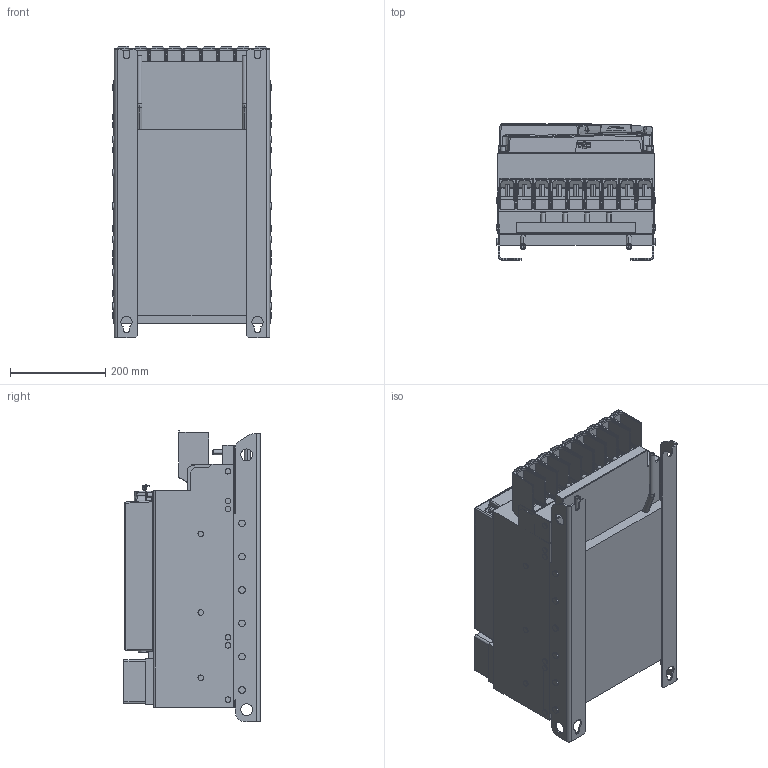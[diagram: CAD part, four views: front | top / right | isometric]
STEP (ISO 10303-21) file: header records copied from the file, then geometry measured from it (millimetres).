
FILE_DESCRIPTION (( 'STEP AP214' ), '1' );
FILE_NAME ('F6-7TW0-A030.STEP', '2021-02-26T09:02:57', ( '' ), ( '' ), 'SwSTEP 2.0', 'SolidWorks 2019', '' );
FILE_SCHEMA (( 'AUTOMOTIVE_DESIGN' ));
Length unit declared in the file: millimetre
Products named in the file (13): 10061504_000_Gehеsebaugruppe ohne L’terkarte; 10059765_000; 10061503_000; 10045475_000_Geh„usebaugruppe F6-7 (Kundenmodell); 10060724_000_ Leistungsteil F6-7 TW0 (Kundenmodell); 10061629_000; 10035736_000_Kundenmodell; 10059764_000_Blindabdeckung (Kundenmodell); F6-7TW0-A030; 10061502_000_Deckel (Kundenmodell); 10043622_000_70F6 Klemme (Kundenmodell); 10061522_000; 10059763_000
Assembly tree (12 placements, depth 4):
  F6-7TW0-A030
    10060724_000_ Leistungsteil F6-7 TW0 (Kundenmodell)
      10043622_000_70F6 Klemme (Kundenmodell)
        10061522_000
      10061629_000
    10045475_000_Geh„usebaugruppe F6-7 (Kundenmodell)
      10061502_000_Deckel (Kundenmodell)
        10061503_000
      10061504_000_Gehеsebaugruppe ohne L’terkarte
    10035736_000_Kundenmodell
      10059764_000_Blindabdeckung (Kundenmodell)
        10059765_000
      10059763_000
Bounding box: 335.4 x 285.9 x 611.76 mm (x, y, z)
Volume: 40116155.2 mm3; surface area: 2135538.9 mm2
Topology: 12 solids, 12 shells, 3229 faces, 8238 edges, 5047 vertices
Faces by surface type: plane 1647, cylinder 959, bspline 286, sphere 172, torus 97, cone 68
Entity records: 104236 total; most frequent: CARTESIAN_POINT 28050, ORIENTED_EDGE 16254, DIRECTION 14944, EDGE_CURVE 8127, LINE 5228, VECTOR 5228, VERTEX_POINT 5044, AXIS2_PLACEMENT_3D 4858
